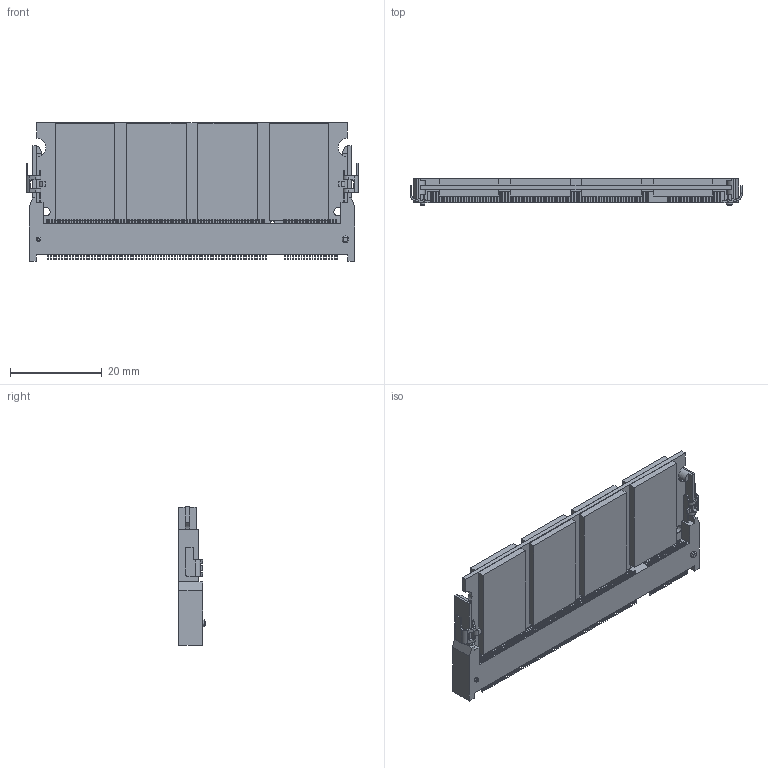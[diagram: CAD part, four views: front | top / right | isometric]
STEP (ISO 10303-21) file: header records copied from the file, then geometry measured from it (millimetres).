
FILE_DESCRIPTION (( 'STEP AP214' ), '1' );
FILE_NAME ('10033853-052FSLF DDR.STEP', '2012-02-12T10:04:51', ( 'Peshkoff' ), ( 'home' ), 'SwSTEP 2.0', 'SolidWorks 2009', '' );
FILE_SCHEMA (( 'AUTOMOTIVE_DESIGN' ));
Length unit declared in the file: millimetre
Products named in the file (1): 10033853-052FSLF DDR
Bounding box: 72.3 x 5.8 x 30.2 mm (x, y, z)
Volume: 7099.9 mm3; surface area: 7638.2 mm2
Topology: 4 solids, 4 shells, 3325 faces, 9430 edges, 6217 vertices
Faces by surface type: plane 2267, cylinder 1054, cone 4
Entity records: 142416 total; most frequent: CARTESIAN_POINT 19029, ORIENTED_EDGE 18860, DIRECTION 18177, EDGE_CURVE 9430, VECTOR 7303, LINE 7303, VERTEX_POINT 6217, AXIS2_PLACEMENT_3D 5437
